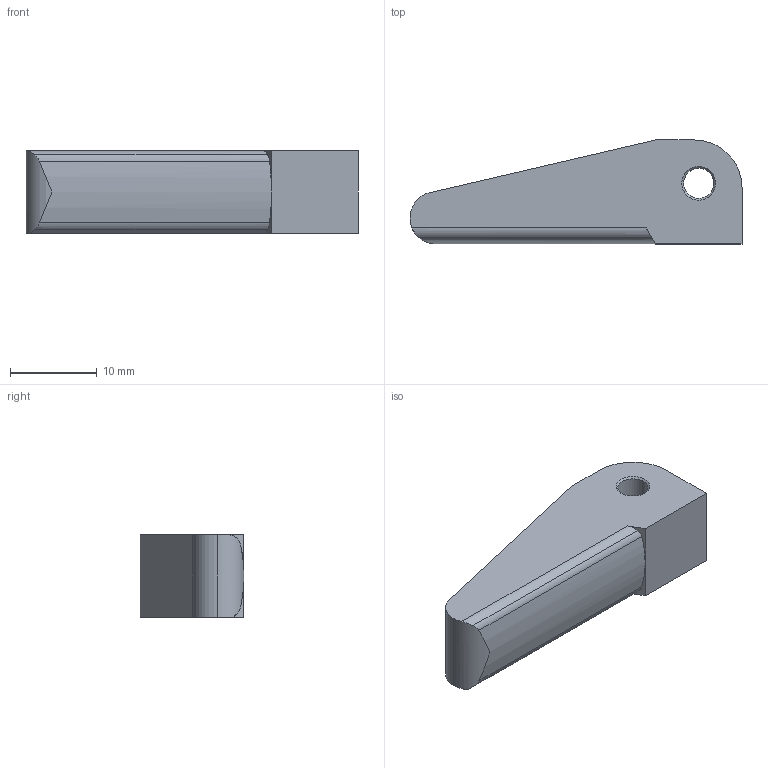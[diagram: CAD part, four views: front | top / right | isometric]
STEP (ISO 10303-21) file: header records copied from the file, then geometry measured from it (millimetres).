
FILE_DESCRIPTION(/* description */ ('STEP AP242','CAx-IF Rec.Pracs.---Representation and Presentation of Product Manufacturing Information (PMI)---4.0---2014-10-13','CAx-IF Rec.Pracs.---3D Tessellated Geometry---0.4---2014-09-14','2;1'),/* implementation_level */ '2;1');
FILE_NAME(/* name */ '65c60f5b050f165a74b6af06',/* time_stamp */ '2024-02-09T11:41:16Z',/* author */ (''),/* organization */ (''),/* preprocessor_version */ 'ST-DEVELOPER v19.4',/* originating_system */ ' ',/* authorisation */ ' ');
FILE_SCHEMA (('AP242_MANAGED_MODEL_BASED_3D_ENGINEERING_MIM_LF { 1 0 10303 442 1 1 4 }'));
Length unit declared in the file: metre
Products named in the file (1): Flapper Rounded Right
Bounding box: 38.35 x 12 x 9.5 mm (x, y, z)
Volume: 3231 mm3; surface area: 1607.7 mm2
Topology: 1 solids, 1 shells, 20 faces, 52 edges, 34 vertices
Faces by surface type: plane 10, cylinder 8, cone 2
Full cylindrical faces by diameter (mm): 3.5 x1
Entity records: 632 total; most frequent: CARTESIAN_POINT 119, DIRECTION 102, ORIENTED_EDGE 98, EDGE_CURVE 49, AXIS2_PLACEMENT_3D 37, VERTEX_POINT 34, LINE 28, VECTOR 28
